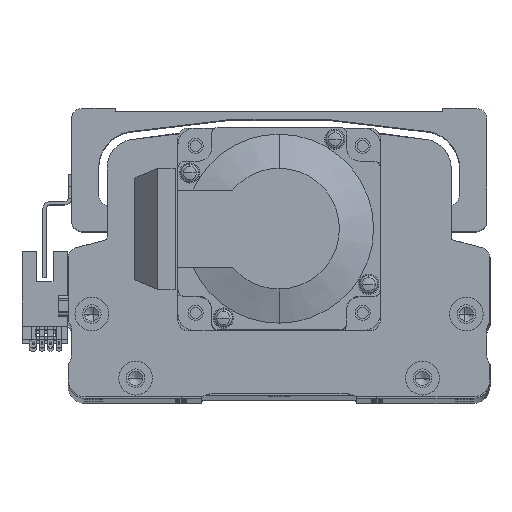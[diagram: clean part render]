
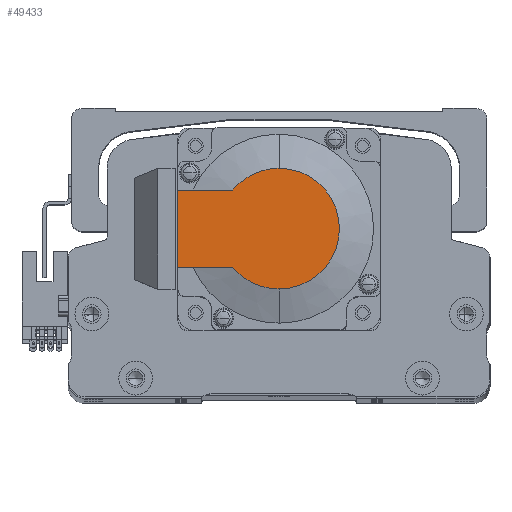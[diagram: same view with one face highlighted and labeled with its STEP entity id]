
A CAD part, top view. The second image highlights one B-rep face of the part: STEP entity #49433.
In plain terms, the highlighted planar face has unit normal (0, 0, 1) as drawn and (-1, 0, 0) by its records, which use the part's own axes.
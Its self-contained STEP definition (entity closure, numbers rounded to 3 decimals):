
#123 = VECTOR ( 'NONE', #23369, 1000. ) ;
#205 = VERTEX_POINT ( 'NONE', #36096 ) ;
#881 = DIRECTION ( 'NONE',  ( 0., 0., -1. ) ) ;
#1394 = VERTEX_POINT ( 'NONE', #34994 ) ;
#2417 = CARTESIAN_POINT ( 'NONE',  ( -118.5, 0., 0. ) ) ;
#2938 = FACE_OUTER_BOUND ( 'NONE', #46878, .T. ) ;
#3724 = ORIENTED_EDGE ( 'NONE', *, *, #9199, .F. ) ;
#4259 = LINE ( 'NONE', #10073, #123 ) ;
#5630 = ORIENTED_EDGE ( 'NONE', *, *, #8068, .T. ) ;
#6880 = DIRECTION ( 'NONE',  ( 0., 0., -1. ) ) ;
#8068 = EDGE_CURVE ( 'NONE', #31109, #30338, #15799, .T. ) ;
#9199 = EDGE_CURVE ( 'NONE', #1394, #30338, #17710, .T. ) ;
#10073 = CARTESIAN_POINT ( 'NONE',  ( -118.5, 30., 25. ) ) ;
#11393 = CARTESIAN_POINT ( 'NONE',  ( -118.5, -8.941, 0. ) ) ;
#12300 = CARTESIAN_POINT ( 'NONE',  ( -118.5, 0., 0. ) ) ;
#13792 = EDGE_CURVE ( 'NONE', #36769, #1394, #4259, .T. ) ;
#15423 = AXIS2_PLACEMENT_3D ( 'NONE', #11393, #42192, #15812 ) ;
#15799 = CIRCLE ( 'NONE', #43737, 17.881 ) ;
#15812 = DIRECTION ( 'NONE',  ( 0., 0., 1. ) ) ;
#16678 = CARTESIAN_POINT ( 'NONE',  ( -118.5, 0., 11.45 ) ) ;
#16751 = DIRECTION ( 'NONE',  ( 0., 0., -1. ) ) ;
#17002 = EDGE_CURVE ( 'NONE', #205, #31109, #23960, .T. ) ;
#17710 = LINE ( 'NONE', #16678, #39722 ) ;
#17733 = CIRCLE ( 'NONE', #50285, 17.881 ) ;
#20027 = CARTESIAN_POINT ( 'NONE',  ( -118.5, -8.941, -11.45 ) ) ;
#21109 = DIRECTION ( 'NONE',  ( 0., -1., 0. ) ) ;
#23150 = ORIENTED_EDGE ( 'NONE', *, *, #27528, .T. ) ;
#23369 = DIRECTION ( 'NONE',  ( 0., 0., 1. ) ) ;
#23960 = CIRCLE ( 'NONE', #47527, 17.881 ) ;
#25302 = VERTEX_POINT ( 'NONE', #51817 ) ;
#26080 = ORIENTED_EDGE ( 'NONE', *, *, #17002, .T. ) ;
#27335 = DIRECTION ( 'NONE',  ( -1., 0., 0. ) ) ;
#27414 = LINE ( 'NONE', #20027, #49407 ) ;
#27528 = EDGE_CURVE ( 'NONE', #36769, #25302, #27414, .T. ) ;
#30338 = VERTEX_POINT ( 'NONE', #37180 ) ;
#31109 = VERTEX_POINT ( 'NONE', #48850 ) ;
#33292 = DIRECTION ( 'NONE',  ( -1., 0., 0. ) ) ;
#33728 = ORIENTED_EDGE ( 'NONE', *, *, #13792, .F. ) ;
#34994 = CARTESIAN_POINT ( 'NONE',  ( -118.5, 30., 11.45 ) ) ;
#35062 = EDGE_CURVE ( 'NONE', #25302, #205, #17733, .T. ) ;
#36096 = CARTESIAN_POINT ( 'NONE',  ( -118.5, 0., -17.881 ) ) ;
#36769 = VERTEX_POINT ( 'NONE', #47505 ) ;
#37180 = CARTESIAN_POINT ( 'NONE',  ( -118.5, 13.735, 11.45 ) ) ;
#39722 = VECTOR ( 'NONE', #21109, 1000. ) ;
#42192 = DIRECTION ( 'NONE',  ( -1., 0., 0. ) ) ;
#43108 = DIRECTION ( 'NONE',  ( -1., 0., 0. ) ) ;
#43737 = AXIS2_PLACEMENT_3D ( 'NONE', #53641, #27335, #881 ) ;
#46585 = DIRECTION ( 'NONE',  ( 0., -1., 0. ) ) ;
#46878 = EDGE_LOOP ( 'NONE', ( #23150, #48603, #26080, #5630, #3724, #33728 ) ) ;
#47505 = CARTESIAN_POINT ( 'NONE',  ( -118.5, 30., -11.45 ) ) ;
#47527 = AXIS2_PLACEMENT_3D ( 'NONE', #2417, #33292, #6880 ) ;
#48603 = ORIENTED_EDGE ( 'NONE', *, *, #35062, .T. ) ;
#48850 = CARTESIAN_POINT ( 'NONE',  ( -118.5, 0., 17.881 ) ) ;
#49407 = VECTOR ( 'NONE', #46585, 1000. ) ;
#49433 = ADVANCED_FACE ( 'NONE', ( #2938 ), #50829, .T. ) ;
#50285 = AXIS2_PLACEMENT_3D ( 'NONE', #12300, #43108, #16751 ) ;
#50829 = PLANE ( 'NONE',  #15423 ) ;
#51817 = CARTESIAN_POINT ( 'NONE',  ( -118.5, 13.735, -11.45 ) ) ;
#53641 = CARTESIAN_POINT ( 'NONE',  ( -118.5, 0., 0. ) ) ;
